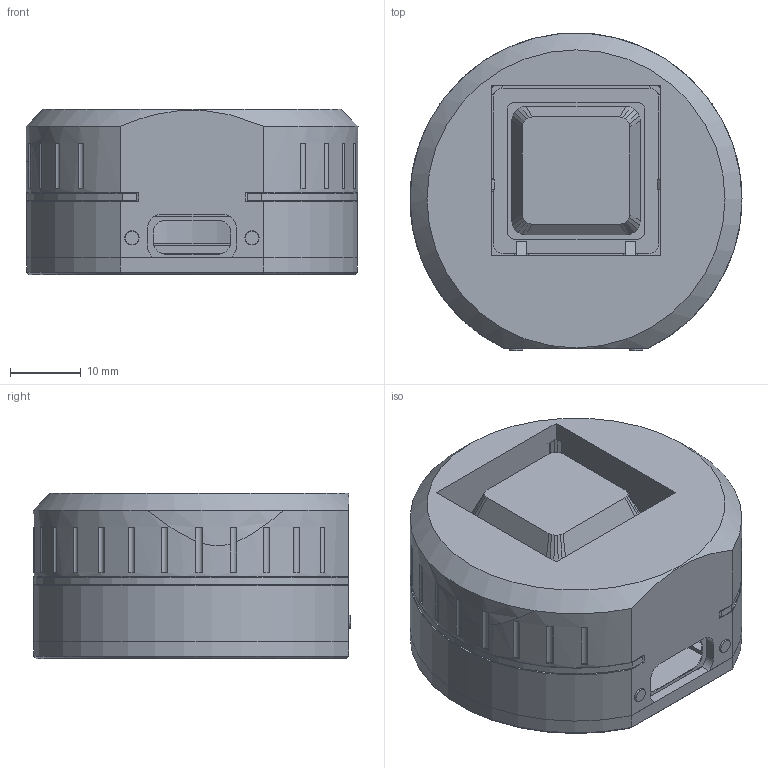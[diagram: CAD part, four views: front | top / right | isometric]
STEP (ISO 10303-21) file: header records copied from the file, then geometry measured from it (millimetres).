
FILE_DESCRIPTION(('Open CASCADE Model'),'2;1');
FILE_NAME('Open CASCADE Shape Model','2026-09-30T21:50:23',('Author'),( 'Open CASCADE'),'Open CASCADE STEP processor 7.9','Open CASCADE 7.9' ,'Unknown');
FILE_SCHEMA(('AUTOMOTIVE_DESIGN { 1 0 10303 214 1 1 1 1 }'));
Length unit declared in the file: millimetre
Products named in the file (11): 2cc97586-bd08-11f1-aefa-650008ae79c1; 01_shell; 02_base; 03_keycap; 04_halo; 05_belt_left; 05_belt_right; 07_xiao_wedge; 09_mx_snap_plate; 06_lightguide_left; 06_lightguide_right
Assembly tree (10 placements, depth 2):
  2cc97586-bd08-11f1-aefa-650008ae79c1
    01_shell
    02_base
    03_keycap
    04_halo
    05_belt_left
    05_belt_right
    07_xiao_wedge
    09_mx_snap_plate
    06_lightguide_left
    06_lightguide_right
Bounding box: 47 x 44.88 x 23.4 mm (x, y, z)
Volume: 16302.5 mm3; surface area: 18479.1 mm2
Topology: 10 solids, 10 shells, 599 faces, 1594 edges, 1059 vertices
Faces by surface type: plane 470, cylinder 75, bspline 48, cone 6
Full cylindrical faces by diameter (mm): 1.9 x2, 2 x2, 3.4 x6, 5.8 x1
Entity records: 40068 total; most frequent: CARTESIAN_POINT 9809, DIRECTION 4895, LINE 3194, VECTOR 3194, ORIENTED_EDGE 3188, PCURVE 3188, DEFINITIONAL_REPRESENTATION 3188, EDGE_CURVE 1594
